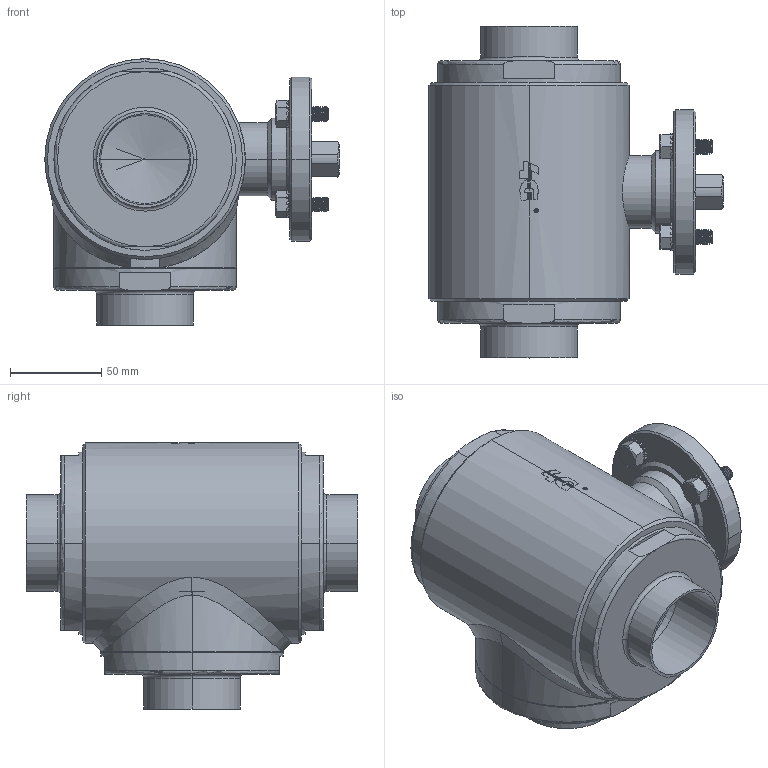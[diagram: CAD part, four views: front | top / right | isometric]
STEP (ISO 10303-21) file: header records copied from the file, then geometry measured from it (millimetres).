
FILE_DESCRIPTION((''),'2;1');
FILE_NAME('3130426N910','2019-11-20T16:13:24',('UFFICIO TECNICO'),('CDM Tecnoconsulting'),'CREO PARAMETRIC BY PTC INC, 2019080','CREO PARAMETRIC BY PTC INC, 2019080','');
FILE_SCHEMA(());
Products named in the file (1): 3130426N910
Bounding box: 161.5 x 182 x 146 mm (x, y, z)
Surface area: 177266.3 mm2 (no closed solid volume)
Topology: 0 solids, 35 shells, 957 faces, 3494 edges, 2492 vertices
Faces by surface type: cylinder 350, plane 297, cone 141, torus 78, bspline 78, extrusion 11, sphere 2
Entity records: 63442 total; most frequent: CARTESIAN_POINT 37288, ORIENTED_EDGE 5628, DIRECTION 4384, EDGE_CURVE 3488, VERTEX_POINT 2492, AXIS2_PLACEMENT_3D 1677, B_SPLINE_CURVE_WITH_KNOTS 1671, VECTOR 1030
